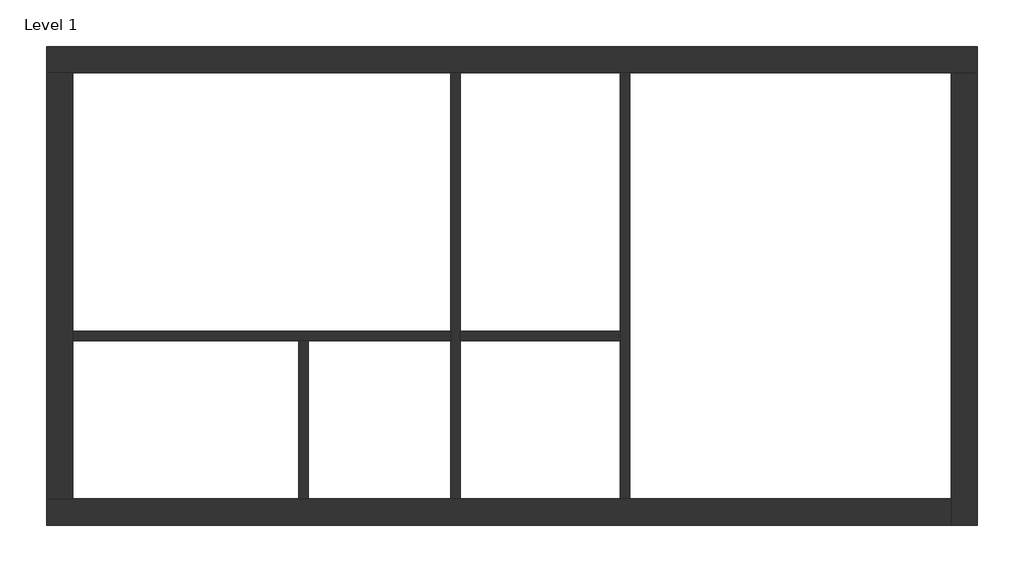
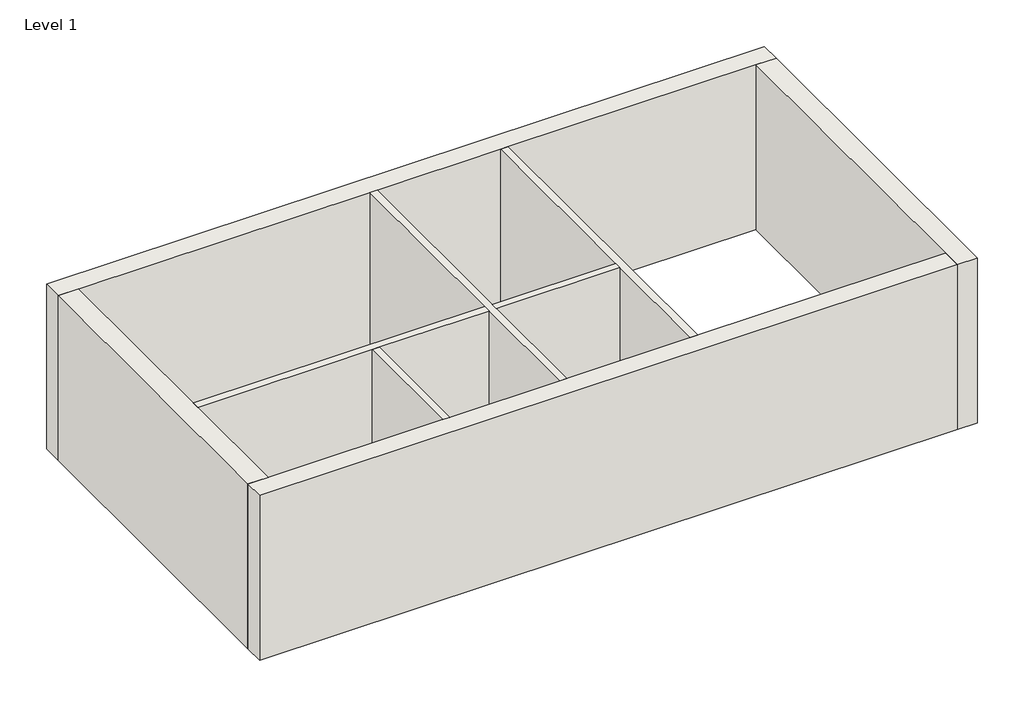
# One storey: 8 walls.
"""IFC4 building model written with IfcOpenShell, lengths in millimetres."""

from ifc_helpers import new_model, si_unit, origin, origin_with_axes, place, context, project, spatial, polyline, outline, extrude, faceted_brep, element, save

model = new_model("IFC4")

# Units and contexts
model_context = context("Model", 3, world=origin())
ifc_project = project(units=[si_unit("LENGTHUNIT", "METRE", prefix="MILLI")], contexts=[model_context])

# Site, building, storey
site = spatial("IfcSite", under=ifc_project)
building = spatial("IfcBuilding", under=site)
storey = spatial("IfcBuildingStorey", under=building, Name="Level 1", Elevation=0.0)

# Walls
placement = place(None, origin())
element("IfcWall", 1, ObjectType="Exterior - Brick on Mtl. Stud", at=placement, inside=storey, context=model_context, shape_type="Brep", body=[
    faceted_brep([(-11569.6714563, 10270.0191867, 0.0), (-11217.2464563, 10270.0191867, 0.0), (-6122.9589563, 10270.0191867, 0.0), (-5995.9589563, 10270.0191867, 0.0), (-3836.9589563, 10270.0191867, 0.0), (-3709.9589563, 10270.0191867, 0.0), (622.3285437, 10270.0191867, 0.0), (974.7535437, 10270.0191867, 0.0), (974.7535437, 10270.0191867, 3048.0), (622.3285437, 10270.0191867, 3048.0), (-3709.9589563, 10270.0191867, 3048.0), (-3836.9589563, 10270.0191867, 3048.0), (-5995.9589563, 10270.0191867, 3048.0), (-6122.9589563, 10270.0191867, 3048.0), (-11217.2464563, 10270.0191867, 3048.0), (-11569.6714563, 10270.0191867, 3048.0), (-11569.6714563, 10622.4441867, 0.0), (-11569.6714563, 10622.4441867, 3048.0), (974.7535437, 10622.4441867, 3048.0), (974.7535437, 10622.4441867, 0.0)], [[[0, 1, 2, 3, 4, 5, 6, 7, 8, 9, 10, 11, 12, 13, 14, 15]], [[16, 17, 18, 19]], [[7, 6, 5, 4, 3, 2, 1, 0, 16, 19]], [[15, 14, 13, 12, 11, 10, 9, 8, 18, 17]], [[8, 7, 19, 18]], [[0, 15, 17, 16]]]),
])
element("IfcWall", 2, ObjectType="Exterior - Brick on Mtl. Stud", at=placement, inside=storey, context=model_context, shape_type="Brep", body=[
    faceted_brep([(622.3285437, 10270.0191867, 0.0), (622.3285437, 4526.4441867, 0.0), (622.3285437, 4174.0191867, 0.0), (622.3285437, 4174.0191867, 3048.0), (622.3285437, 4526.4441867, 3048.0), (622.3285437, 10270.0191867, 3048.0), (974.7535437, 10270.0191867, 0.0), (974.7535437, 10270.0191867, 3048.0), (974.7535437, 4174.0191867, 3048.0), (974.7535437, 4174.0191867, 0.0)], [[[0, 1, 2, 3, 4, 5]], [[6, 7, 8, 9]], [[2, 1, 0, 6, 9]], [[5, 4, 3, 8, 7]], [[3, 2, 9, 8]], [[0, 5, 7, 6]]]),
])
element("IfcWall", 3, ObjectType="Exterior - Brick on Mtl. Stud", at=placement, inside=storey, context=model_context, shape_type="Brep", body=[
    faceted_brep([(622.3285437, 4526.4441867, 0.0), (-3709.9589563, 4526.4441867, 0.0), (-3836.9589563, 4526.4441867, 0.0), (-5995.9589563, 4526.4441867, 0.0), (-6122.9589563, 4526.4441867, 0.0), (-8042.2464563, 4526.4441867, 0.0), (-8169.2464563, 4526.4441867, 0.0), (-11217.2464563, 4526.4441867, 0.0), (-11569.6714563, 4526.4441867, 0.0), (-11569.6714563, 4526.4441867, 3048.0), (-11217.2464563, 4526.4441867, 3048.0), (-8169.2464563, 4526.4441867, 3048.0), (-8042.2464563, 4526.4441867, 3048.0), (-6122.9589563, 4526.4441867, 3048.0), (-5995.9589563, 4526.4441867, 3048.0), (-3836.9589563, 4526.4441867, 3048.0), (-3709.9589563, 4526.4441867, 3048.0), (622.3285437, 4526.4441867, 3048.0), (622.3285437, 4174.0191867, 0.0), (622.3285437, 4174.0191867, 3048.0), (-11569.6714563, 4174.0191867, 3048.0), (-11569.6714563, 4174.0191867, 0.0)], [[[0, 1, 2, 3, 4, 5, 6, 7, 8, 9, 10, 11, 12, 13, 14, 15, 16, 17]], [[18, 19, 20, 21]], [[8, 7, 6, 5, 4, 3, 2, 1, 0, 18, 21]], [[17, 16, 15, 14, 13, 12, 11, 10, 9, 20, 19]], [[9, 8, 21, 20]], [[0, 17, 19, 18]]]),
])
element("IfcWall", 4, ObjectType="Exterior - Brick on Mtl. Stud", at=placement, inside=storey, context=model_context, shape_type="Brep", body=[
    faceted_brep([(-11217.2464563, 4526.4441867, 0.0), (-11217.2464563, 6660.0441867, 0.0), (-11217.2464563, 6787.0441867, 0.0), (-11217.2464563, 10270.0191867, 0.0), (-11217.2464563, 10270.0191867, 3048.0), (-11217.2464563, 6787.0441867, 3048.0), (-11217.2464563, 6660.0441867, 3048.0), (-11217.2464563, 4526.4441867, 3048.0), (-11569.6714563, 4526.4441867, 0.0), (-11569.6714563, 4526.4441867, 3048.0), (-11569.6714563, 10270.0191867, 3048.0), (-11569.6714563, 10270.0191867, 0.0)], [[[0, 1, 2, 3, 4, 5, 6, 7]], [[8, 9, 10, 11]], [[3, 2, 1, 0, 8, 11]], [[7, 6, 5, 4, 10, 9]], [[0, 7, 9, 8]], [[4, 3, 11, 10]]]),
])
element("IfcWall", 5, ObjectType="Interior - 5\" Partition (2-hr)", at=placement, inside=storey, context=model_context, shape_type="Brep", body=[
    faceted_brep([(-3836.9589563, 10270.0191867, 0.0), (-3836.9589563, 6787.0441867, 0.0), (-3836.9589563, 6660.0441867, 0.0), (-3836.9589563, 4526.4441867, 0.0), (-3836.9589563, 4526.4441867, 3048.0), (-3836.9589563, 6660.0441867, 3048.0), (-3836.9589563, 6787.0441867, 3048.0), (-3836.9589563, 10270.0191867, 3048.0), (-3709.9589563, 10270.0191867, 0.0), (-3709.9589563, 10270.0191867, 3048.0), (-3709.9589563, 4526.4441867, 3048.0), (-3709.9589563, 4526.4441867, 0.0)], [[[0, 1, 2, 3, 4, 5, 6, 7]], [[8, 9, 10, 11]], [[3, 2, 1, 0, 8, 11]], [[7, 6, 5, 4, 10, 9]], [[0, 7, 9, 8]], [[4, 3, 11, 10]]]),
])
element("IfcWall", 6, ObjectType="Interior - 5\" Partition (2-hr)", at=placement, inside=storey, context=model_context, shape_type="Brep", body=[
    faceted_brep([(-6122.9589563, 10270.0191867, 0.0), (-6122.9589563, 6787.0441867, 0.0), (-6122.9589563, 6660.0441867, 0.0), (-6122.9589563, 4526.4441867, 0.0), (-6122.9589563, 4526.4441867, 3048.0), (-6122.9589563, 6660.0441867, 3048.0), (-6122.9589563, 6787.0441867, 3048.0), (-6122.9589563, 10270.0191867, 3048.0), (-5995.9589563, 10270.0191867, 0.0), (-5995.9589563, 10270.0191867, 3048.0), (-5995.9589563, 6787.0441867, 3048.0), (-5995.9589563, 6660.0441867, 3048.0), (-5995.9589563, 4526.4441867, 3048.0), (-5995.9589563, 4526.4441867, 0.0), (-5995.9589563, 6660.0441867, 0.0), (-5995.9589563, 6787.0441867, 0.0)], [[[0, 1, 2, 3, 4, 5, 6, 7]], [[8, 9, 10, 11, 12, 13, 14, 15]], [[3, 2, 1, 0, 8, 15, 14, 13]], [[7, 6, 5, 4, 12, 11, 10, 9]], [[0, 7, 9, 8]], [[4, 3, 13, 12]]]),
])
element("IfcWall", 7, ObjectType="Interior - 5\" Partition (2-hr)", at=placement, inside=storey, context=model_context, shape_type="Brep", body=[
    faceted_brep([(-11217.2464563, 6660.0441867, 0.0), (-11217.2464563, 6787.0441867, 0.0), (-6122.9589563, 6787.0441867, 0.0), (-6122.9589563, 6660.0441867, 0.0), (-8042.2464563, 6660.0441867, 0.0), (-8169.2464563, 6660.0441867, 0.0), (-11217.2464563, 6787.0441867, 3048.0), (-11217.2464563, 6660.0441867, 3048.0), (-8169.2464563, 6660.0441867, 3048.0), (-8042.2464563, 6660.0441867, 3048.0), (-6122.9589563, 6660.0441867, 3048.0), (-6122.9589563, 6787.0441867, 3048.0)], [[[0, 1, 2, 3, 4, 5]], [[6, 7, 8, 9, 10, 11]], [[7, 0, 5, 4, 3, 10, 9, 8]], [[1, 6, 11, 2]], [[0, 7, 6, 1]], [[3, 2, 11, 10]]]),
    faceted_brep([(-3836.9589563, 6787.0441867, 0.0), (-3836.9589563, 6660.0441867, 0.0), (-5995.9589563, 6660.0441867, 0.0), (-5995.9589563, 6787.0441867, 0.0), (-3836.9589563, 6660.0441867, 3048.0), (-3836.9589563, 6787.0441867, 3048.0), (-5995.9589563, 6787.0441867, 3048.0), (-5995.9589563, 6660.0441867, 3048.0)], [[[0, 1, 2, 3]], [[4, 5, 6, 7]], [[1, 4, 7, 2]], [[5, 0, 3, 6]], [[4, 1, 0, 5]], [[3, 2, 7, 6]]]),
])
element("IfcWall", 8, ObjectType="Interior - 5\" Partition (2-hr)", at=placement, inside=storey, context=model_context, shape_type="SweptSolid", body=[
    extrude(outline(polyline([(-8042.2464563, 6660.0441867), (-8042.2464563, 4526.4441867), (-8169.2464563, 4526.4441867), (-8169.2464563, 6660.0441867), (-8042.2464563, 6660.0441867)])), origin_with_axes(), (0.0, 0.0, 1.0), 3048.0),
])

save(model, "model.ifc")
